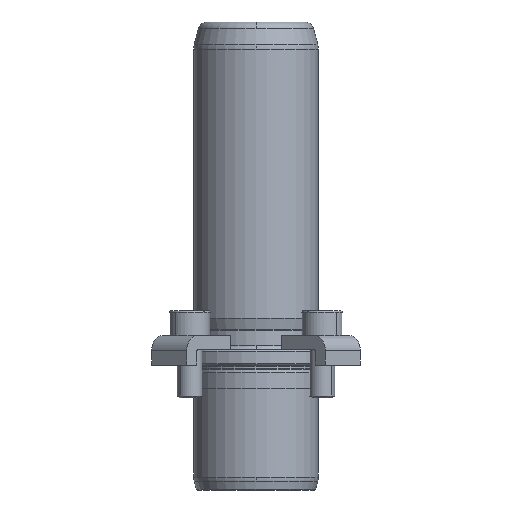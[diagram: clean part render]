
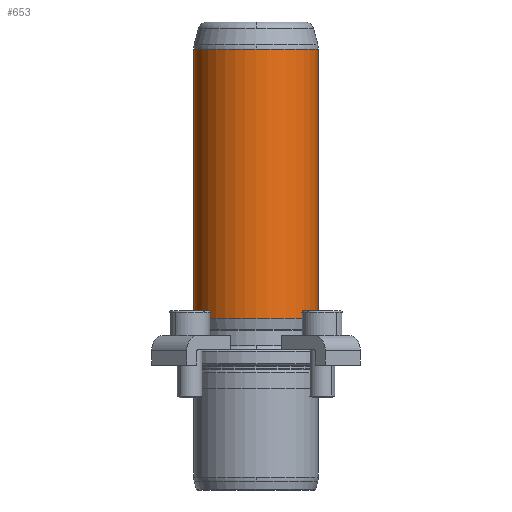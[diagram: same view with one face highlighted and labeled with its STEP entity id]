
A CAD part, front view. The second image highlights one B-rep face of the part: STEP entity #653.
In plain terms, the highlighted cylindrical face has radius 20 mm (diameter 40 mm), a partial arc.
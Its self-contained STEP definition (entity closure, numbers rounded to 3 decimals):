
#566=CARTESIAN_POINT('',(0.0,-20.,101.342));
#567=VERTEX_POINT('',#566);
#594=CARTESIAN_POINT('',(-20.0,0.,101.342));
#595=VERTEX_POINT('',#594);
#603=CARTESIAN_POINT('',(0.0,0.,101.342));
#604=DIRECTION('',(0.0,0.0,1.0));
#605=DIRECTION('',(1.0,0.0,0.0));
#606=AXIS2_PLACEMENT_3D('',#603,#604,#605);
#607=CIRCLE('',#606,20.0);
#608=EDGE_CURVE('',#595,#567,#607,.T.);
#613=CARTESIAN_POINT('',(0.0,0.,58.171));
#614=DIRECTION('',(0.0,0.,1.0));
#615=DIRECTION('',(1.0,0.0,0.0));
#616=AXIS2_PLACEMENT_3D('',#613,#614,#615);
#617=CYLINDRICAL_SURFACE('',#616,20.0);
#618=CARTESIAN_POINT('',(20.0,0.,101.342));
#619=VERTEX_POINT('',#618);
#620=CARTESIAN_POINT('',(20.0,0.,15.0));
#621=VERTEX_POINT('',#620);
#622=CARTESIAN_POINT('',(20.0,0.,101.342));
#623=DIRECTION('',(0.0,0.0,-1.0));
#624=VECTOR('',#623,86.342);
#625=LINE('',#622,#624);
#626=EDGE_CURVE('',#619,#621,#625,.T.);
#627=ORIENTED_EDGE('',*,*,#626,.F.);
#628=CARTESIAN_POINT('',(0.0,0.,101.342));
#629=DIRECTION('',(0.0,0.0,1.0));
#630=DIRECTION('',(1.0,0.0,0.0));
#631=AXIS2_PLACEMENT_3D('',#628,#629,#630);
#632=CIRCLE('',#631,20.0);
#633=EDGE_CURVE('',#567,#619,#632,.T.);
#634=ORIENTED_EDGE('',*,*,#633,.F.);
#635=ORIENTED_EDGE('',*,*,#608,.F.);
#636=CARTESIAN_POINT('',(-20.0,0.,15.0));
#637=VERTEX_POINT('',#636);
#638=CARTESIAN_POINT('',(-20.0,0.,101.342));
#639=DIRECTION('',(0.0,0.0,-1.0));
#640=VECTOR('',#639,86.342);
#641=LINE('',#638,#640);
#642=EDGE_CURVE('',#595,#637,#641,.T.);
#643=ORIENTED_EDGE('',*,*,#642,.T.);
#644=CARTESIAN_POINT('',(0.0,0.,15.0));
#645=DIRECTION('',(0.0,0.0,1.0));
#646=DIRECTION('',(1.0,0.0,0.0));
#647=AXIS2_PLACEMENT_3D('',#644,#645,#646);
#648=CIRCLE('',#647,20.0);
#649=EDGE_CURVE('',#637,#621,#648,.T.);
#650=ORIENTED_EDGE('',*,*,#649,.T.);
#651=EDGE_LOOP('',(#627,#634,#635,#643,#650));
#652=FACE_OUTER_BOUND('',#651,.T.);
#653=ADVANCED_FACE('',(#652),#617,.T.);
